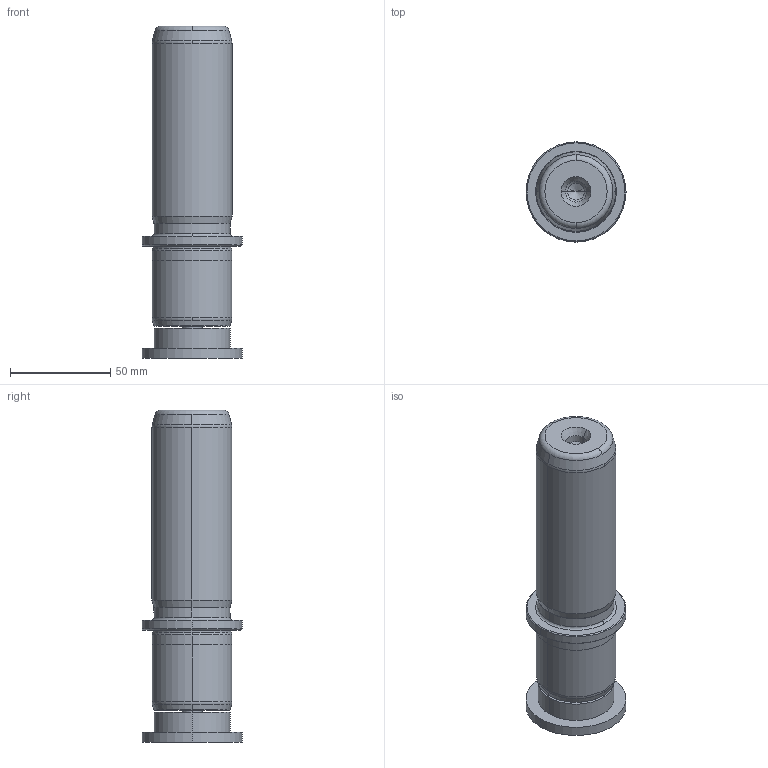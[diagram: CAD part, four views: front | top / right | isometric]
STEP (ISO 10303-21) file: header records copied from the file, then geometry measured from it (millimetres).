
FILE_DESCRIPTION((''),'2;1');
FILE_NAME('P22_040_110.stp','2009-02-16T10:18:49',(''),(''),'Mechanical Desktop 2009','Mechanical Desktop 2009',', , ');
FILE_SCHEMA(('CONFIG_CONTROL_DESIGN'));
Length unit declared in the file: millimetre
Products named in the file (2): Product; blmdl1
Assembly tree (1 placements, depth 2):
  Product
    blmdl1
Bounding box: 50 x 50 x 166 mm (x, y, z)
Volume: 207207.1 mm3; surface area: 32269.3 mm2
Topology: 3 solids, 3 shells, 99 faces, 237 edges, 149 vertices
Faces by surface type: cylinder 32, cone 28, plane 19, torus 10, bspline 10
Entity records: 3419 total; most frequent: CARTESIAN_POINT 923, DIRECTION 570, ORIENTED_EDGE 466, AXIS2_PLACEMENT_3D 246, EDGE_CURVE 233, CIRCLE 155, VERTEX_POINT 149, EDGE_LOOP 110
